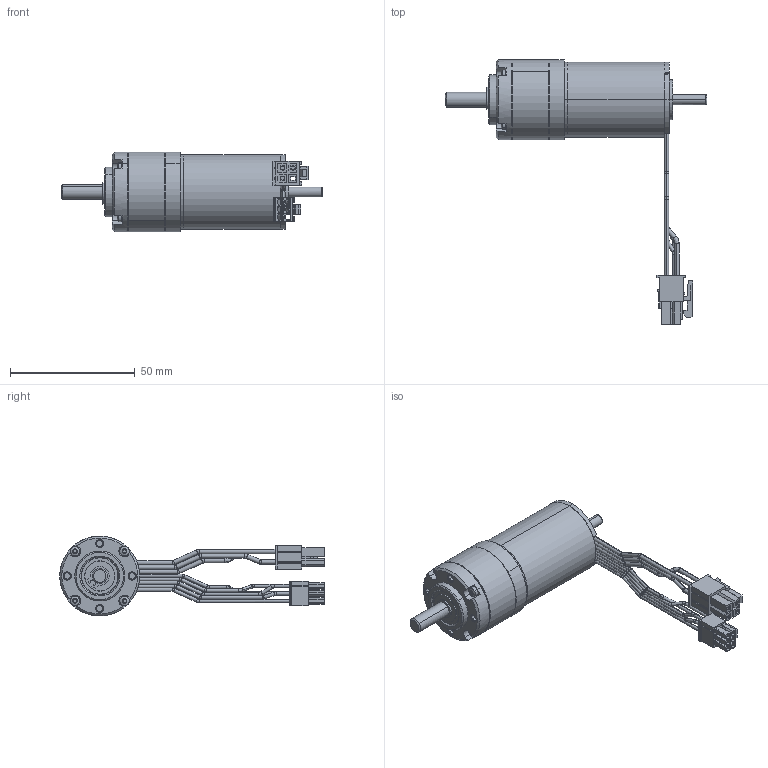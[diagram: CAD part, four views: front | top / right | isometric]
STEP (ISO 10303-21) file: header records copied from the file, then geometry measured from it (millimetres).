
FILE_DESCRIPTION (( 'STEP AP214' ), '1' );
FILE_NAME ('EC-i30+PM32-1 étage.STEP', '2019-11-12T09:47:39', ( '' ), ( '' ), 'SwSTEP 2.0', 'SolidWorks 2018', '' );
FILE_SCHEMA (( 'AUTOMOTIVE_DESIGN' ));
Length unit declared in the file: millimetre
Products named in the file (20): 539481_EC-i30_45W_HighTorque; Coté sortie^PM32 pour ECMax30L; DIN998_PS_6X12X0_5_2; Coté moteur^PM32 pour ECMax30L; SCHRAUBEN_1232149; PM32 pour ECMax30L_1 etage; P8209_8100249_ZAHNKRANZ_1ST_2; GK545_POS23_4_ABTRIEB_LK4_KPL_2; 8011610_ANLAUFSCHEIBE_G_1ST_2; DIN471_SR_06X00_7_2; D625-619_6-2Z_2; D472_15X1_2; EC-i30+PM32-1 étage; 8002481_MOTORRITZEL_Z17; GK235_POS42_DICHTRING_2; FLACHKOPFSCHRAUBE_M2X21_PRECOTE_2; 8101913_LAGERFLANSCH_2; GK235_POS13_LAGERBOLZEN_2; 1009218; GK545_POS22_ABTRIEB_ROHTEIL_AF0_2
Assembly tree (35 placements, depth 5):
  EC-i30+PM32-1 étage
    PM32 pour ECMax30L_1 etage
      P8209_8100249_ZAHNKRANZ_1ST_2  x3
      Coté sortie^PM32 pour ECMax30L
        8101913_LAGERFLANSCH_2
        D472_15X1_2
        D625-619_6-2Z_2  x2
        DIN998_PS_6X12X0_5_2  x2
        GK545_POS23_4_ABTRIEB_LK4_KPL_2
          GK545_POS22_ABTRIEB_ROHTEIL_AF0_2
          GK235_POS13_LAGERBOLZEN_2  x3
        DIN471_SR_06X00_7_2
        GK235_POS42_DICHTRING_2
        FLACHKOPFSCHRAUBE_M2X21_PRECOTE_2  x4
      Coté moteur^PM32 pour ECMax30L
        GK235_POS42_DICHTRING_2
        8011610_ANLAUFSCHEIBE_G_1ST_2
        8002481_MOTORRITZEL_Z17
      GK235_POS42_DICHTRING_2  x3
      SCHRAUBEN_1232149  x4
      1009218
    539481_EC-i30_45W_HighTorque
Bounding box: 104.65 x 105.86 x 32 mm (x, y, z)
Volume: 23222 mm3; surface area: 44238.3 mm2
Topology: 25 solids, 49 shells, 2254 faces, 6142 edges, 3984 vertices
Faces by surface type: plane 951, cylinder 943, cone 147, bspline 129, torus 80, sphere 4
Entity records: 68233 total; most frequent: CARTESIAN_POINT 12923, ORIENTED_EDGE 8346, DIRECTION 8333, EDGE_CURVE 4217, AXIS2_PLACEMENT_3D 2916, VERTEX_POINT 2736, LINE 2501, VECTOR 2501
